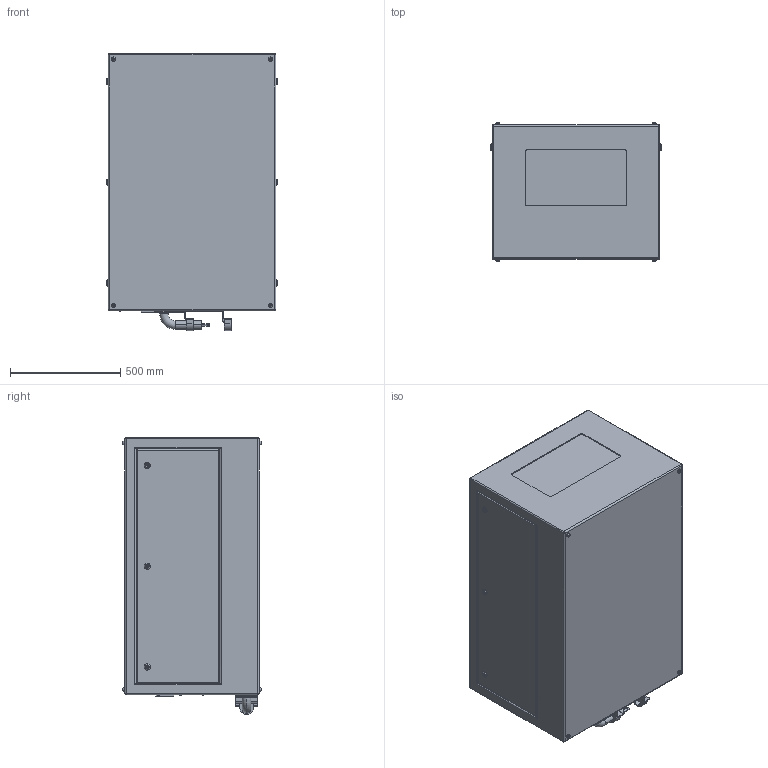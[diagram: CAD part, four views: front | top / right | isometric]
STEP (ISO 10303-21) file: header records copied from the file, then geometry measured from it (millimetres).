
FILE_DESCRIPTION (( 'STEP AP214' ), '1' );
FILE_NAME ('Oasis 59.202.L R02.STEP', '2022-09-12T23:36:57', ( '' ), ( '' ), 'SwSTEP 2.0', 'SolidWorks 2020', '' );
FILE_SCHEMA (( 'AUTOMOTIVE_DESIGN' ));
Length unit declared in the file: inch
Products named in the file (1): Oasis 59.202.L R02
Bounding box: 774.7 x 626.87 x 1257.3 mm (x, y, z)
Volume: 542108592.5 mm3; surface area: 4582339.2 mm2
Topology: 3 solids, 9 shells, 480 faces, 1099 edges, 696 vertices
Faces by surface type: plane 261, cylinder 169, torus 42, bspline 8
Entity records: 18195 total; most frequent: CARTESIAN_POINT 2788, DIRECTION 2391, ORIENTED_EDGE 2182, EDGE_CURVE 1091, AXIS2_PLACEMENT_3D 859, VERTEX_POINT 696, LINE 673, VECTOR 673
